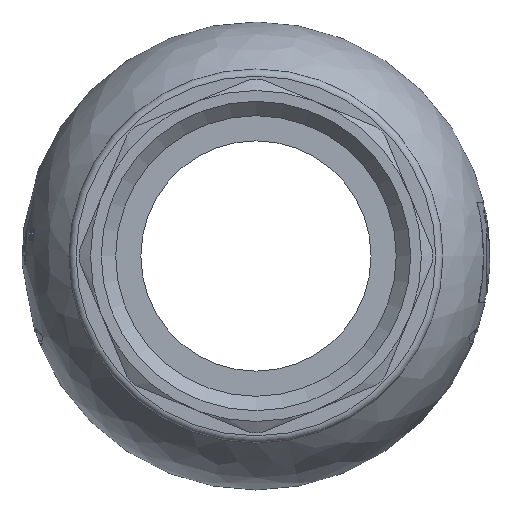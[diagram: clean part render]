
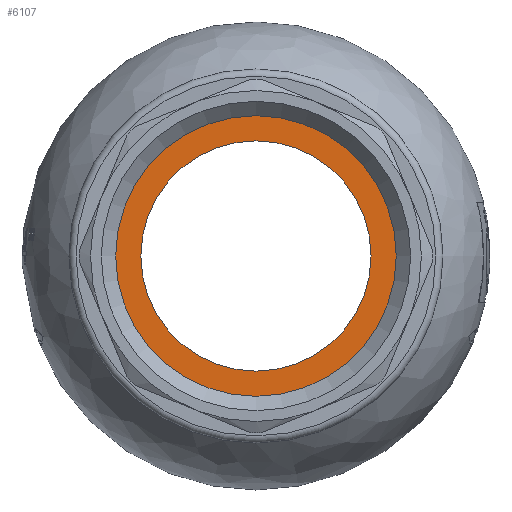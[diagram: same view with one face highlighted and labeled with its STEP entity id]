
A CAD part, left-side view. The second image highlights one B-rep face of the part: STEP entity #6107.
In plain terms, the highlighted planar face has unit normal (-1, 0, 0).
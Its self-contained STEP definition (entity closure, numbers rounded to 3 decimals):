
#6051=CARTESIAN_POINT('',(14.981,19.5,-0.));
#6052=VERTEX_POINT('',#6051);
#6061=CARTESIAN_POINT('',(14.981,0.,0.));
#6062=DIRECTION('',(1.,0.,-0.));
#6063=DIRECTION('',(-0.,1.,-0.));
#6064=AXIS2_PLACEMENT_3D('',#6061,#6062,#6063);
#6065=CIRCLE('',#6064,19.5);
#6066=EDGE_CURVE('',#6052,#6052,#6065,.T.);
#6088=CARTESIAN_POINT('',(14.981,0.,0.));
#6089=DIRECTION('',(1.,0.,-0.));
#6090=DIRECTION('',(-0.,1.,-0.));
#6091=AXIS2_PLACEMENT_3D('',#6088,#6089,#6090);
#6092=PLANE('',#6091);
#6093=CARTESIAN_POINT('',(14.981,16.,-0.));
#6094=VERTEX_POINT('',#6093);
#6095=CARTESIAN_POINT('',(14.981,0.,0.));
#6096=DIRECTION('',(1.,0.,-0.));
#6097=DIRECTION('',(-0.,1.,-0.));
#6098=AXIS2_PLACEMENT_3D('',#6095,#6096,#6097);
#6099=CIRCLE('',#6098,16.);
#6100=EDGE_CURVE('',#6094,#6094,#6099,.T.);
#6101=ORIENTED_EDGE('',*,*,#6100,.T.);
#6102=EDGE_LOOP('',(#6101));
#6103=FACE_BOUND('',#6102,.T.);
#6104=ORIENTED_EDGE('',*,*,#6066,.F.);
#6105=EDGE_LOOP('',(#6104));
#6106=FACE_BOUND('',#6105,.T.);
#6107=ADVANCED_FACE('',(#6103,#6106),#6092,.F.);
